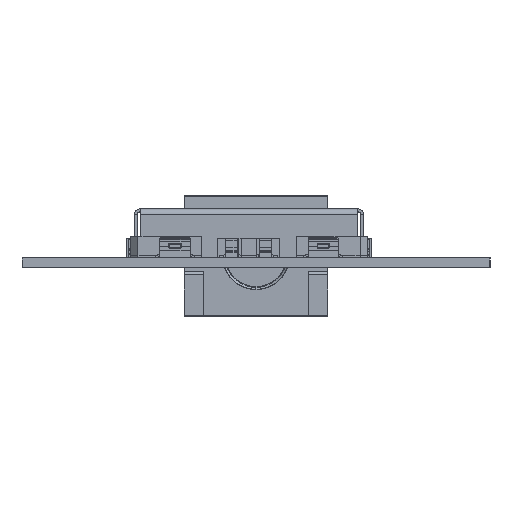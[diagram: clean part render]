
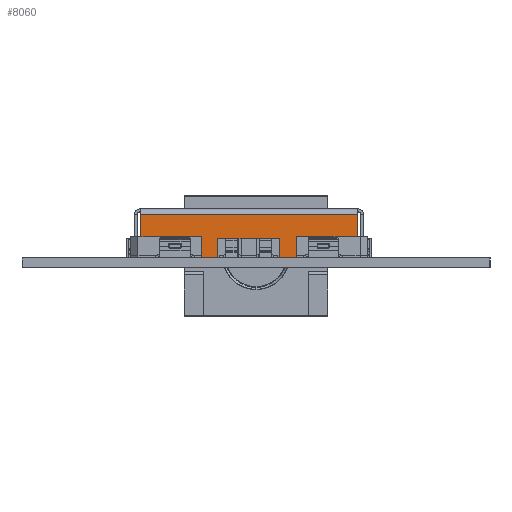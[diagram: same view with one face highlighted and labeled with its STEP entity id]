
A CAD part, left-side view. The second image highlights one B-rep face of the part: STEP entity #8060.
In plain terms, the highlighted planar face has unit normal (-1, 0, 0) as drawn and (0, 0, -1) by its records, which use the part's own axes.
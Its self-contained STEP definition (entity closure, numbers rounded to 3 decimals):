
#8007 = VERTEX_POINT('',#8008);
#8008 = CARTESIAN_POINT('',(7.2,-0.4,-10.1));
#8040 = VERTEX_POINT('',#8041);
#8041 = CARTESIAN_POINT('',(-7.2,-0.4,-10.1));
#8050 = EDGE_CURVE('',#8040,#8007,#8051,.T.);
#8051 = LINE('',#8052,#8053);
#8052 = CARTESIAN_POINT('',(-7.2,-0.4,-10.1));
#8053 = VECTOR('',#8054,1.);
#8054 = DIRECTION('',(1.,0.,0.));
#8060 = ADVANCED_FACE('',(#8061),#8086,.T.);
#8061 = FACE_BOUND('',#8062,.F.);
#8062 = EDGE_LOOP('',(#8063,#8071,#8072,#8080));
#8063 = ORIENTED_EDGE('',*,*,#8064,.F.);
#8064 = EDGE_CURVE('',#8007,#8065,#8067,.T.);
#8065 = VERTEX_POINT('',#8066);
#8066 = CARTESIAN_POINT('',(7.2,-3.2,-10.1));
#8067 = LINE('',#8068,#8069);
#8068 = CARTESIAN_POINT('',(7.2,-0.4,-10.1));
#8069 = VECTOR('',#8070,1.);
#8070 = DIRECTION('',(0.,-1.,0.));
#8071 = ORIENTED_EDGE('',*,*,#8050,.F.);
#8072 = ORIENTED_EDGE('',*,*,#8073,.F.);
#8073 = EDGE_CURVE('',#8074,#8040,#8076,.T.);
#8074 = VERTEX_POINT('',#8075);
#8075 = CARTESIAN_POINT('',(-7.2,-3.2,-10.1));
#8076 = LINE('',#8077,#8078);
#8077 = CARTESIAN_POINT('',(-7.2,-3.2,-10.1));
#8078 = VECTOR('',#8079,1.);
#8079 = DIRECTION('',(0.,1.,0.));
#8080 = ORIENTED_EDGE('',*,*,#8081,.F.);
#8081 = EDGE_CURVE('',#8065,#8074,#8082,.T.);
#8082 = LINE('',#8083,#8084);
#8083 = CARTESIAN_POINT('',(7.2,-3.2,-10.1));
#8084 = VECTOR('',#8085,1.);
#8085 = DIRECTION('',(-1.,0.,0.));
#8086 = PLANE('',#8087);
#8087 = AXIS2_PLACEMENT_3D('',#8088,#8089,#8090);
#8088 = CARTESIAN_POINT('',(7.2,0.,-10.1));
#8089 = DIRECTION('',(0.,0.,-1.));
#8090 = DIRECTION('',(1.,0.,0.));
